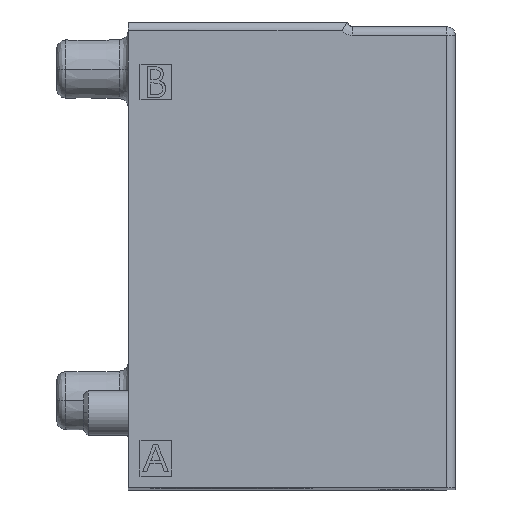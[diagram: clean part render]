
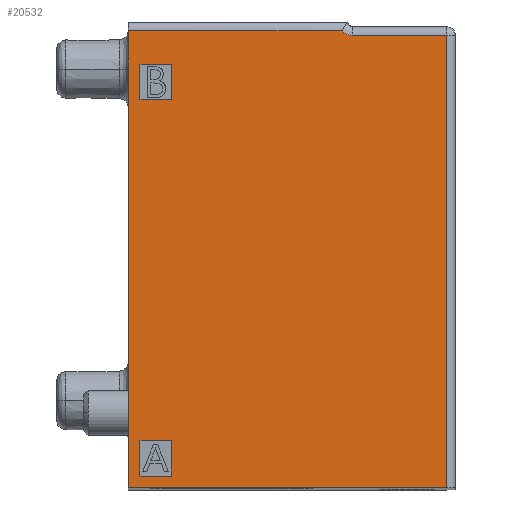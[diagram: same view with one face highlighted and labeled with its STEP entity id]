
A CAD part, top view. The second image highlights one B-rep face of the part: STEP entity #20532.
In plain terms, the highlighted planar face has unit normal (0, 0, 1).
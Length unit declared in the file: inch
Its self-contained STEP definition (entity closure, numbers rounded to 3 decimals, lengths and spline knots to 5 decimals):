
#55 = FACE_BOUND ( 'NONE', #17789, .T. ) ;
#69 = CARTESIAN_POINT ( 'NONE',  ( 0.24142, 2.00787, 2.77559 ) ) ;
#303 = CARTESIAN_POINT ( 'NONE',  ( -0.50984, 0., 2.77559 ) ) ;
#387 = CARTESIAN_POINT ( 'NONE',  ( 0.30512, 0.05118, 2.77559 ) ) ;
#810 = DIRECTION ( 'NONE',  ( -1., 0., 0. ) ) ;
#1296 = LINE ( 'NONE', #24993, #3058 ) ;
#1584 = VECTOR ( 'NONE', #30754, 39.37008 ) ;
#1691 = VERTEX_POINT ( 'NONE', #10629 ) ;
#1822 = CARTESIAN_POINT ( 'NONE',  ( -0.69882, 0., 2.77559 ) ) ;
#2435 = VERTEX_POINT ( 'NONE', #24078 ) ;
#3058 = VECTOR ( 'NONE', #32832, 39.37008 ) ;
#3227 = VECTOR ( 'NONE', #29323, 39.37008 ) ;
#3451 = DIRECTION ( 'NONE',  ( 1., 0., 0. ) ) ;
#3918 = VERTEX_POINT ( 'NONE', #20710 ) ;
#3977 = CARTESIAN_POINT ( 'NONE',  ( 0.30512, 0., 2.77559 ) ) ;
#4587 = VECTOR ( 'NONE', #33507, 39.37008 ) ;
#4809 = EDGE_CURVE ( 'NONE', #27523, #13062, #15181, .T. ) ;
#5059 = CARTESIAN_POINT ( 'NONE',  ( 0.69882, 1.98819, 2.77559 ) ) ;
#5615 = CARTESIAN_POINT ( 'NONE',  ( 0.30512, 0., 2.77559 ) ) ;
#5862 = ORIENTED_EDGE ( 'NONE', *, *, #8486, .F. ) ;
#6024 = DIRECTION ( 'NONE',  ( 1., 0., 0. ) ) ;
#6780 = VERTEX_POINT ( 'NONE', #19605 ) ;
#7016 = DIRECTION ( 'NONE',  ( -1., 0., 0. ) ) ;
#7040 = VECTOR ( 'NONE', #3451, 39.37008 ) ;
#7587 = VECTOR ( 'NONE', #810, 39.37008 ) ;
#7992 = VECTOR ( 'NONE', #27439, 39.37008 ) ;
#7999 = LINE ( 'NONE', #22806, #7587 ) ;
#8433 = ORIENTED_EDGE ( 'NONE', *, *, #23746, .T. ) ;
#8486 = EDGE_CURVE ( 'NONE', #2435, #1691, #11874, .T. ) ;
#8768 = CARTESIAN_POINT ( 'NONE',  ( -0.64764, 1.8622, 2.77559 ) ) ;
#8824 = LINE ( 'NONE', #20181, #1584 ) ;
#9072 = CARTESIAN_POINT ( 'NONE',  ( 0.25279, 1.99516, 2.77559 ) ) ;
#9170 = CARTESIAN_POINT ( 'NONE',  ( -0.64764, 1.70472, 2.77559 ) ) ;
#10174 = VECTOR ( 'NONE', #29348, 39.37008 ) ;
#10629 = CARTESIAN_POINT ( 'NONE',  ( -0.64764, 0.05118, 2.77559 ) ) ;
#11193 = ORIENTED_EDGE ( 'NONE', *, *, #17765, .F. ) ;
#11196 = EDGE_CURVE ( 'NONE', #14315, #21000, #22449, .T. ) ;
#11439 = CARTESIAN_POINT ( 'NONE',  ( -0.50984, 0., 2.77559 ) ) ;
#11577 = VECTOR ( 'NONE', #33375, 39.37008 ) ;
#11804 = DIRECTION ( 'NONE',  ( -1., 0., 0. ) ) ;
#11874 = LINE ( 'NONE', #30005, #16609 ) ;
#12098 = VECTOR ( 'NONE', #27826, 39.37008 ) ;
#12326 = CARTESIAN_POINT ( 'NONE',  ( -0.50984, 0.20866, 2.77559 ) ) ;
#13062 = VERTEX_POINT ( 'NONE', #13194 ) ;
#13167 = DIRECTION ( 'NONE',  ( 0., -1., 0. ) ) ;
#13194 = CARTESIAN_POINT ( 'NONE',  ( -0.50984, 1.70472, 2.77559 ) ) ;
#13731 = EDGE_CURVE ( 'NONE', #21496, #20860, #24772, .T. ) ;
#13903 = VECTOR ( 'NONE', #6024, 39.37008 ) ;
#14237 = CARTESIAN_POINT ( 'NONE',  ( -0.50984, 0.05118, 2.77559 ) ) ;
#14315 = VERTEX_POINT ( 'NONE', #14237 ) ;
#14317 = EDGE_CURVE ( 'NONE', #1691, #14315, #29824, .T. ) ;
#14522 = EDGE_LOOP ( 'NONE', ( #19342, #26771, #8433, #29208, #11193, #23567 ) ) ;
#14647 = AXIS2_PLACEMENT_3D ( 'NONE', #3977, #28289, #11804 ) ;
#14706 = VECTOR ( 'NONE', #7016, 39.37008 ) ;
#15181 = LINE ( 'NONE', #24156, #3227 ) ;
#15290 = LINE ( 'NONE', #5615, #7992 ) ;
#15963 = EDGE_LOOP ( 'NONE', ( #5862, #21954, #16572, #30669 ) ) ;
#16013 = CARTESIAN_POINT ( 'NONE',  ( 0.69882, 0., 2.77559 ) ) ;
#16140 = ORIENTED_EDGE ( 'NONE', *, *, #27949, .F. ) ;
#16572 = ORIENTED_EDGE ( 'NONE', *, *, #11196, .F. ) ;
#16609 = VECTOR ( 'NONE', #13167, 39.37008 ) ;
#17223 = VERTEX_POINT ( 'NONE', #32073 ) ;
#17592 = FACE_BOUND ( 'NONE', #15963, .T. ) ;
#17765 = EDGE_CURVE ( 'NONE', #6780, #21496, #28367, .T. ) ;
#17789 = EDGE_LOOP ( 'NONE', ( #23582, #27512, #16140, #28157 ) ) ;
#18498 = EDGE_CURVE ( 'NONE', #25163, #27523, #1296, .T. ) ;
#18579 = LINE ( 'NONE', #25472, #7040 ) ;
#18758 =( BOUNDED_CURVE ( )  B_SPLINE_CURVE ( 3, ( #20335, #9072, #20455, #33824 ),
 .UNSPECIFIED., .F., .F. ) 
 B_SPLINE_CURVE_WITH_KNOTS ( ( 4, 4 ),
 ( 0., 1. ),
 .UNSPECIFIED. ) 
 CURVE ( )  GEOMETRIC_REPRESENTATION_ITEM ( )  RATIONAL_B_SPLINE_CURVE ( ( 1., 0.942, 0.942, 1. ) ) 
 REPRESENTATION_ITEM ( '' )  );
#19342 = ORIENTED_EDGE ( 'NONE', *, *, #31117, .F. ) ;
#19605 = CARTESIAN_POINT ( 'NONE',  ( 0.28543, 1.98819, 2.77559 ) ) ;
#20181 = CARTESIAN_POINT ( 'NONE',  ( -0.69882, 0., 2.77559 ) ) ;
#20335 = CARTESIAN_POINT ( 'NONE',  ( 0.24142, 2.00787, 2.77559 ) ) ;
#20455 = CARTESIAN_POINT ( 'NONE',  ( 0.26837, 1.98819, 2.77559 ) ) ;
#20530 = CARTESIAN_POINT ( 'NONE',  ( 0.30512, 0.20866, 2.77559 ) ) ;
#20532 = ADVANCED_FACE ( 'NONE', ( #34846, #17592, #55 ), #23072, .F. ) ;
#20710 = CARTESIAN_POINT ( 'NONE',  ( -0.69882, 2.00787, 2.77559 ) ) ;
#20860 = VERTEX_POINT ( 'NONE', #33275 ) ;
#21000 = VERTEX_POINT ( 'NONE', #12326 ) ;
#21496 = VERTEX_POINT ( 'NONE', #5059 ) ;
#21500 = VERTEX_POINT ( 'NONE', #1822 ) ;
#21954 = ORIENTED_EDGE ( 'NONE', *, *, #31226, .F. ) ;
#22449 = LINE ( 'NONE', #11439, #12098 ) ;
#22806 = CARTESIAN_POINT ( 'NONE',  ( 0.30512, 1.8622, 2.77559 ) ) ;
#23072 = PLANE ( 'NONE',  #14647 ) ;
#23567 = ORIENTED_EDGE ( 'NONE', *, *, #32350, .F. ) ;
#23582 = ORIENTED_EDGE ( 'NONE', *, *, #18498, .F. ) ;
#23746 = EDGE_CURVE ( 'NONE', #21500, #20860, #15290, .T. ) ;
#24078 = CARTESIAN_POINT ( 'NONE',  ( -0.64764, 0.20866, 2.77559 ) ) ;
#24156 = CARTESIAN_POINT ( 'NONE',  ( 0.30512, 1.70472, 2.77559 ) ) ;
#24772 = LINE ( 'NONE', #16013, #10174 ) ;
#24965 = CARTESIAN_POINT ( 'NONE',  ( 0.30512, 1.98819, 2.77559 ) ) ;
#24993 = CARTESIAN_POINT ( 'NONE',  ( -0.64764, 0., 2.77559 ) ) ;
#25163 = VERTEX_POINT ( 'NONE', #8768 ) ;
#25472 = CARTESIAN_POINT ( 'NONE',  ( 0.30512, 2.00787, 2.77559 ) ) ;
#26771 = ORIENTED_EDGE ( 'NONE', *, *, #34241, .F. ) ;
#27439 = DIRECTION ( 'NONE',  ( 1., 0., 0. ) ) ;
#27512 = ORIENTED_EDGE ( 'NONE', *, *, #30445, .F. ) ;
#27523 = VERTEX_POINT ( 'NONE', #9170 ) ;
#27826 = DIRECTION ( 'NONE',  ( 0., 1., 0. ) ) ;
#27869 = VERTEX_POINT ( 'NONE', #69 ) ;
#27949 = EDGE_CURVE ( 'NONE', #13062, #17223, #32025, .T. ) ;
#28157 = ORIENTED_EDGE ( 'NONE', *, *, #4809, .F. ) ;
#28289 = DIRECTION ( 'NONE',  ( 0., 0., -1. ) ) ;
#28367 = LINE ( 'NONE', #24965, #11577 ) ;
#28457 = LINE ( 'NONE', #20530, #14706 ) ;
#29208 = ORIENTED_EDGE ( 'NONE', *, *, #13731, .F. ) ;
#29323 = DIRECTION ( 'NONE',  ( 1., 0., 0. ) ) ;
#29348 = DIRECTION ( 'NONE',  ( 0., -1., 0. ) ) ;
#29824 = LINE ( 'NONE', #387, #13903 ) ;
#30005 = CARTESIAN_POINT ( 'NONE',  ( -0.64764, 0., 2.77559 ) ) ;
#30445 = EDGE_CURVE ( 'NONE', #17223, #25163, #7999, .T. ) ;
#30669 = ORIENTED_EDGE ( 'NONE', *, *, #14317, .F. ) ;
#30754 = DIRECTION ( 'NONE',  ( 0., 1., 0. ) ) ;
#31117 = EDGE_CURVE ( 'NONE', #3918, #27869, #18579, .T. ) ;
#31226 = EDGE_CURVE ( 'NONE', #21000, #2435, #28457, .T. ) ;
#32025 = LINE ( 'NONE', #303, #4587 ) ;
#32073 = CARTESIAN_POINT ( 'NONE',  ( -0.50984, 1.8622, 2.77559 ) ) ;
#32350 = EDGE_CURVE ( 'NONE', #27869, #6780, #18758, .T. ) ;
#32832 = DIRECTION ( 'NONE',  ( 0., -1., 0. ) ) ;
#33275 = CARTESIAN_POINT ( 'NONE',  ( 0.69882, 0., 2.77559 ) ) ;
#33375 = DIRECTION ( 'NONE',  ( 1., 0., 0. ) ) ;
#33507 = DIRECTION ( 'NONE',  ( 0., 1., 0. ) ) ;
#33824 = CARTESIAN_POINT ( 'NONE',  ( 0.28543, 1.98819, 2.77559 ) ) ;
#34241 = EDGE_CURVE ( 'NONE', #21500, #3918, #8824, .T. ) ;
#34846 = FACE_OUTER_BOUND ( 'NONE', #14522, .T. ) ;
